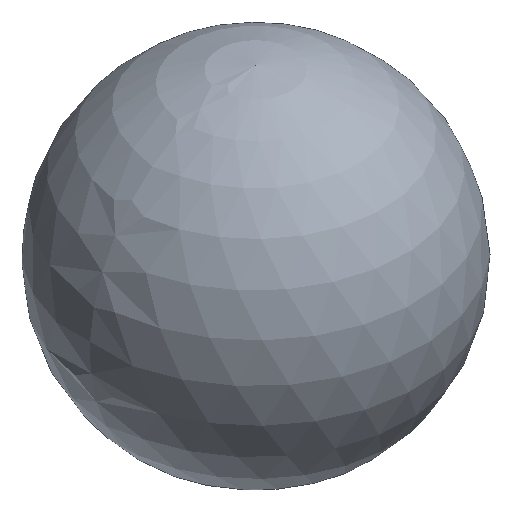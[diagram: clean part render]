
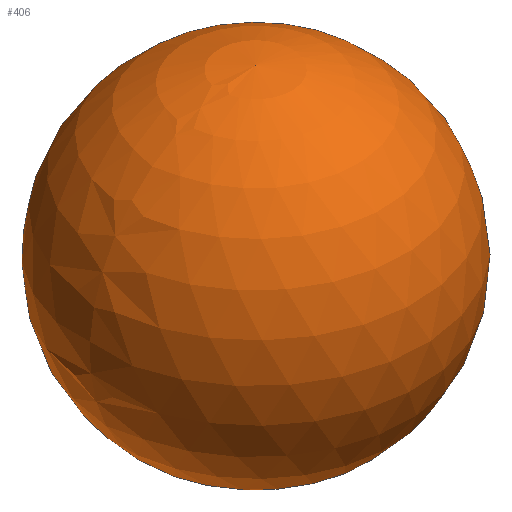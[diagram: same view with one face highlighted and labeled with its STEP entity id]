
A CAD part, isometric view. The second image highlights one B-rep face of the part: STEP entity #406.
In plain terms, the highlighted spherical face has radius 150 mm.
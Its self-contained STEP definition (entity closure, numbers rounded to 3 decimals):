
#19=SPHERICAL_SURFACE('',#477,150.);
#55=CIRCLE('',#478,41.414);
#56=CIRCLE('',#479,150.);
#57=CIRCLE('',#480,41.414);
#87=FACE_OUTER_BOUND('',#114,.T.);
#114=EDGE_LOOP('',(#357,#358,#359,#360));
#200=VERTEX_POINT('',#833);
#201=VERTEX_POINT('',#834);
#202=VERTEX_POINT('',#836);
#254=EDGE_CURVE('',#200,#201,#55,.T.);
#255=EDGE_CURVE('',#202,#200,#56,.T.);
#256=EDGE_CURVE('',#201,#200,#57,.T.);
#357=ORIENTED_EDGE('',*,*,#254,.F.);
#358=ORIENTED_EDGE('',*,*,#255,.F.);
#359=ORIENTED_EDGE('',*,*,#255,.T.);
#360=ORIENTED_EDGE('',*,*,#256,.F.);
#406=ADVANCED_FACE('',(#87),#19,.T.);
#477=AXIS2_PLACEMENT_3D('',#832,#595,#596);
#478=AXIS2_PLACEMENT_3D('',#835,#597,#598);
#479=AXIS2_PLACEMENT_3D('',#837,#599,#600);
#480=AXIS2_PLACEMENT_3D('',#838,#601,#602);
#595=DIRECTION('center_axis',(0.,0.,
1.));
#596=DIRECTION('ref_axis',(1.,0.,0.));
#597=DIRECTION('center_axis',(0.,0.,-1.));
#598=DIRECTION('ref_axis',(1.,0.,0.));
#599=DIRECTION('center_axis',(0.,-1.,0.));
#600=DIRECTION('ref_axis',(-1.,0.,0.));
#601=DIRECTION('center_axis',(0.,0.,-1.));
#602=DIRECTION('ref_axis',(1.,0.,0.));
#832=CARTESIAN_POINT('Origin',(0.,0.,144.17));
#833=CARTESIAN_POINT('',(-41.414,0.,0.));
#834=CARTESIAN_POINT('',(41.414,0.,0.));
#835=CARTESIAN_POINT('Origin',(0.,0.,0.));
#836=CARTESIAN_POINT('',(0.,0.,294.17));
#837=CARTESIAN_POINT('Origin',(0.,0.,144.17));
#838=CARTESIAN_POINT('Origin',(0.,0.,0.));
